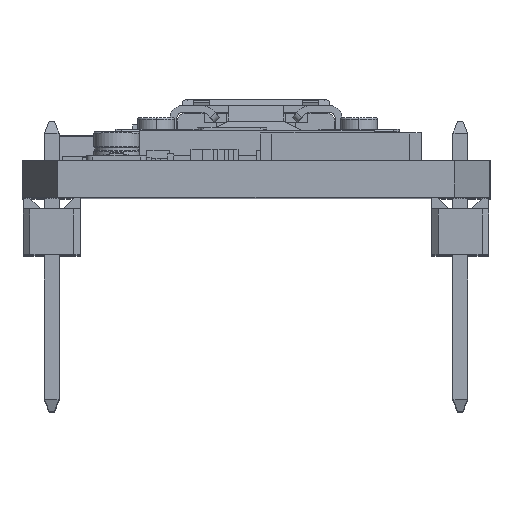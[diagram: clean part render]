
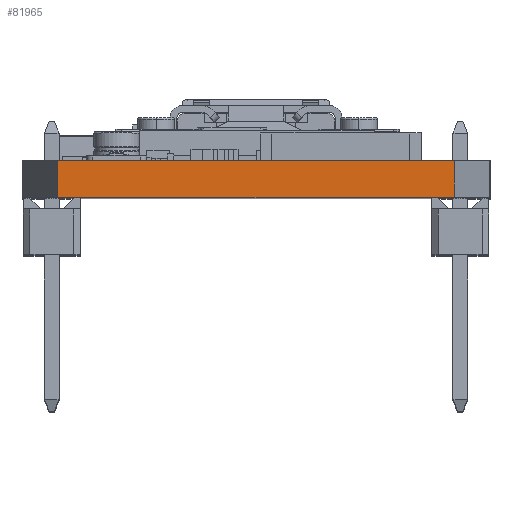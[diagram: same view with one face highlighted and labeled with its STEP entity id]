
A CAD part, top view. The second image highlights one B-rep face of the part: STEP entity #81965.
In plain terms, the highlighted planar face has unit normal (0, 0, 1) as drawn and (0, -1, 0) by its records, which use the part's own axes.
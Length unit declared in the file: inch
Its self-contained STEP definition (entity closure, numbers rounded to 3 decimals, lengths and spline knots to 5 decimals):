
#11139 = DIRECTION ( 'NONE',  ( 1., 0., 0. ) ) ;
#14749 = DIRECTION ( 'NONE',  ( 1., 0., 0. ) ) ;
#17772 = CARTESIAN_POINT ( 'NONE',  ( 0.06, 0., -0.063 ) ) ;
#20491 = CARTESIAN_POINT ( 'NONE',  ( 0.74, 0., 0. ) ) ;
#25708 = ORIENTED_EDGE ( 'NONE', *, *, #63895, .T. ) ;
#27390 = CARTESIAN_POINT ( 'NONE',  ( 0.06, 0., 0. ) ) ;
#30537 = ORIENTED_EDGE ( 'NONE', *, *, #45555, .F. ) ;
#32684 = DIRECTION ( 'NONE',  ( 0., 0., 1. ) ) ;
#43821 = DIRECTION ( 'NONE',  ( 1., 0., 0. ) ) ;
#45555 = EDGE_CURVE ( 'NONE', #65513, #77650, #54773, .T. ) ;
#46470 = CARTESIAN_POINT ( 'NONE',  ( 0.06, 0., -0.063 ) ) ;
#47520 = AXIS2_PLACEMENT_3D ( 'NONE', #90164, #58646, #43821 ) ;
#51137 = VERTEX_POINT ( 'NONE', #20491 ) ;
#52145 = EDGE_LOOP ( 'NONE', ( #63582, #30537, #77944, #25708 ) ) ;
#54773 = LINE ( 'NONE', #17772, #59664 ) ;
#58646 = DIRECTION ( 'NONE',  ( 0., -1., 0. ) ) ;
#59664 = VECTOR ( 'NONE', #32684, 39.37008 ) ;
#61350 = EDGE_CURVE ( 'NONE', #77650, #51137, #69977, .T. ) ;
#62099 = EDGE_CURVE ( 'NONE', #65513, #98851, #92751, .T. ) ;
#62689 = VECTOR ( 'NONE', #11139, 39.37008 ) ;
#63582 = ORIENTED_EDGE ( 'NONE', *, *, #61350, .F. ) ;
#63895 = EDGE_CURVE ( 'NONE', #98851, #51137, #93490, .T. ) ;
#65513 = VERTEX_POINT ( 'NONE', #46470 ) ;
#69977 = LINE ( 'NONE', #27390, #62689 ) ;
#70818 = VECTOR ( 'NONE', #14749, 39.37008 ) ;
#74151 = VECTOR ( 'NONE', #81462, 39.37008 ) ;
#75277 = PLANE ( 'NONE',  #47520 ) ;
#76242 = CARTESIAN_POINT ( 'NONE',  ( 0.06, 0., -0.063 ) ) ;
#77650 = VERTEX_POINT ( 'NONE', #77665 ) ;
#77665 = CARTESIAN_POINT ( 'NONE',  ( 0.06, 0., 0. ) ) ;
#77944 = ORIENTED_EDGE ( 'NONE', *, *, #62099, .T. ) ;
#81462 = DIRECTION ( 'NONE',  ( 0., 0., 1. ) ) ;
#81965 = ADVANCED_FACE ( 'NONE', ( #82276 ), #75277, .T. ) ;
#82276 = FACE_OUTER_BOUND ( 'NONE', #52145, .T. ) ;
#90164 = CARTESIAN_POINT ( 'NONE',  ( 0.06, 0., -0.063 ) ) ;
#92751 = LINE ( 'NONE', #76242, #70818 ) ;
#93490 = LINE ( 'NONE', #97033, #74151 ) ;
#94630 = CARTESIAN_POINT ( 'NONE',  ( 0.74, 0., -0.063 ) ) ;
#97033 = CARTESIAN_POINT ( 'NONE',  ( 0.74, 0., -0.063 ) ) ;
#98851 = VERTEX_POINT ( 'NONE', #94630 ) ;
